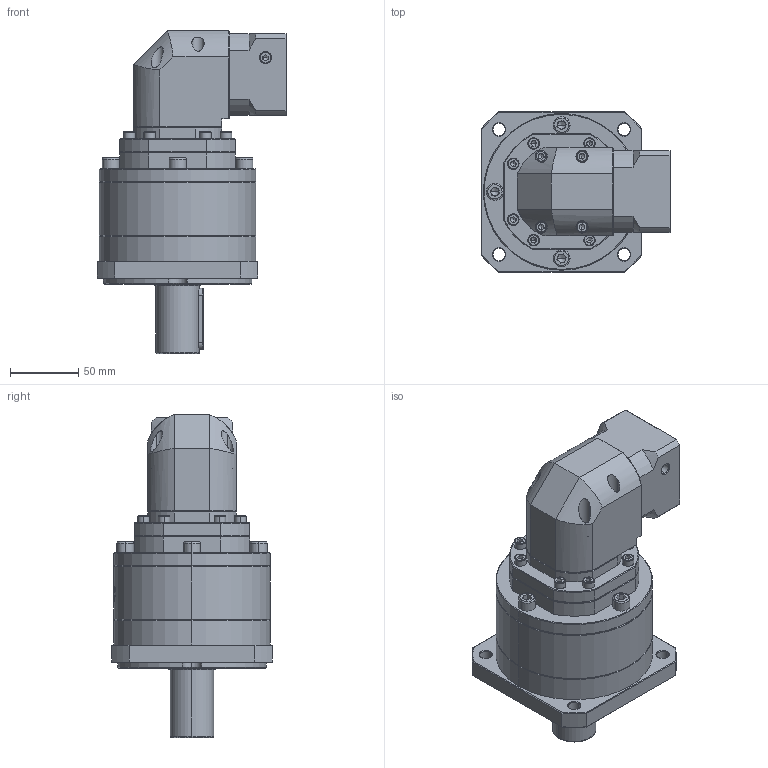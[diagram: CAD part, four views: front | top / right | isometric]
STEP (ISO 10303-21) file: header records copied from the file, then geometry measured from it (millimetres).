
FILE_DESCRIPTION (( 'STEP AP214' ), '1' );
FILE_NAME ('ZFR120A-D32-L3-P2-6.35-38.1-47.14x47.14-M4.step', '2023-08-27T09:50:17', ( '' ), ( '' ), 'SwSTEP 2.0', 'SolidWorks 2016', '' );
FILE_SCHEMA (( 'AUTOMOTIVE_DESIGN' ));
Length unit declared in the file: millimetre
Products named in the file (1): ZFR120A-D32-L3-P2-6.35-38.1-47.14x47.14-M4
Bounding box: 139.2 x 118 x 237.5 mm (x, y, z)
Volume: 1488013.8 mm3; surface area: 141856.5 mm2
Topology: 6 solids, 6 shells, 2431 faces, 6445 edges, 4131 vertices
Faces by surface type: plane 1173, cylinder 456, bspline 447, cone 347, torus 8
Entity records: 127574 total; most frequent: CARTESIAN_POINT 45975, ORIENTED_EDGE 12782, DIRECTION 9554, EDGE_CURVE 6391, VERTEX_POINT 4131, LINE 3402, VECTOR 3402, AXIS2_PLACEMENT_3D 3076
